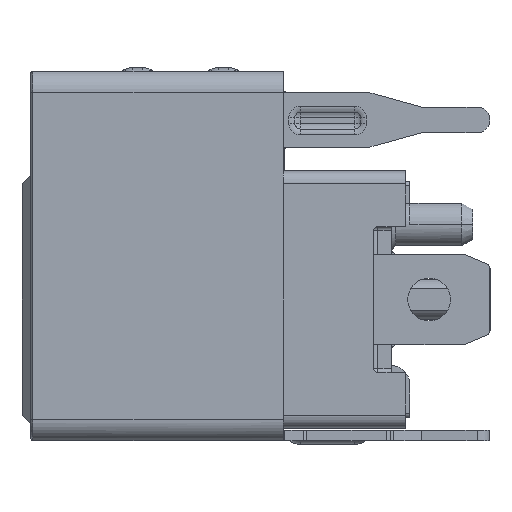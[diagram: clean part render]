
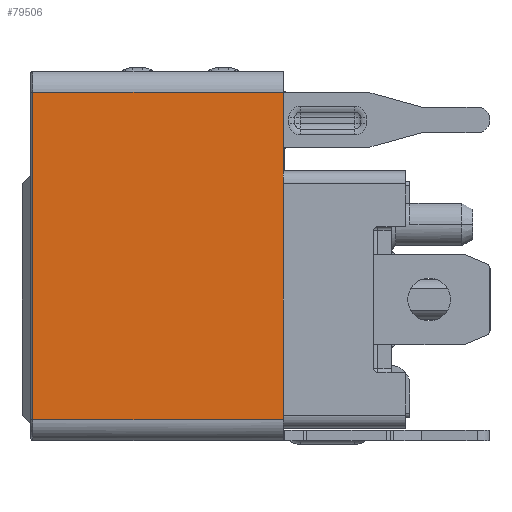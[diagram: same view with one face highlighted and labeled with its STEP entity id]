
A CAD part, left-side view. The second image highlights one B-rep face of the part: STEP entity #79506.
In plain terms, the highlighted planar face has unit normal (-1, 0, 0).
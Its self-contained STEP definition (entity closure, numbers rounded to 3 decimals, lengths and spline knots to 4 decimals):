
#4592=DIRECTION('',(0.,0.,-1.));
#4593=VECTOR('',#4592,3.64);
#4594=CARTESIAN_POINT('',(-28.06,2.22,1.82));
#4595=LINE('',#4594,#4593);
#4675=CARTESIAN_POINT('',(-28.06,2.42,-1.92));
#4676=DIRECTION('',(-1.,0.,0.));
#4677=DIRECTION('',(0.,0.,1.));
#4678=AXIS2_PLACEMENT_3D('',#4675,#4676,#4677);
#4680=DIRECTION('',(0.,0.,-1.));
#4681=VECTOR('',#4680,0.765);
#4682=CARTESIAN_POINT('',(-28.06,2.52,-2.035));
#4683=LINE('',#4682,#4681);
#4684=DIRECTION('',(0.,0.,-1.));
#4685=VECTOR('',#4684,0.965);
#4686=CARTESIAN_POINT('',(-28.06,2.52,3.));
#4687=LINE('',#4686,#4685);
#4688=CARTESIAN_POINT('',(-28.06,2.42,1.92));
#4689=DIRECTION('',(-1.,0.,0.));
#4690=DIRECTION('',(0.,1.,0.));
#4691=AXIS2_PLACEMENT_3D('',#4688,#4689,#4690);
#4701=DIRECTION('',(0.,-1.,0.));
#4702=VECTOR('',#4701,0.2);
#4703=CARTESIAN_POINT('',(-28.06,2.42,-1.82));
#4704=LINE('',#4703,#4702);
#4713=DIRECTION('',(0.,0.,1.));
#4714=VECTOR('',#4713,0.115);
#4715=CARTESIAN_POINT('',(-28.06,2.52,-2.035));
#4716=LINE('',#4715,#4714);
#4725=DIRECTION('',(0.,-1.,0.));
#4726=VECTOR('',#4725,5.85);
#4727=CARTESIAN_POINT('',(-28.06,8.37,-2.8));
#4728=LINE('',#4727,#4726);
#12267=DIRECTION('',(0.,0.,1.));
#12268=VECTOR('',#12267,1.83);
#12269=CARTESIAN_POINT('',(-28.06,2.52,3.));
#12270=LINE('',#12269,#12268);
#12295=DIRECTION('',(0.,1.,0.));
#12296=VECTOR('',#12295,5.85);
#12297=CARTESIAN_POINT('',(-28.06,2.52,4.83));
#12298=LINE('',#12297,#12296);
#16560=DIRECTION('',(0.,0.,1.));
#16561=VECTOR('',#16560,7.63);
#16562=CARTESIAN_POINT('',(-28.06,8.37,-2.8));
#16563=LINE('',#16562,#16561);
#43356=DIRECTION('',(0.,0.,1.));
#43357=VECTOR('',#43356,0.115);
#43358=CARTESIAN_POINT('',(-28.06,2.52,1.92));
#43359=LINE('',#43358,#43357);
#43372=DIRECTION('',(0.,-1.,0.));
#43373=VECTOR('',#43372,0.2);
#43374=CARTESIAN_POINT('',(-28.06,2.42,1.82));
#43375=LINE('',#43374,#43373);
#55446=CARTESIAN_POINT('',(-28.06,2.42,1.82));
#55447=CARTESIAN_POINT('',(-28.06,2.22,1.82));
#55448=VERTEX_POINT('',#55446);
#55449=VERTEX_POINT('',#55447);
#55450=CARTESIAN_POINT('',(-28.06,2.52,1.92));
#55451=VERTEX_POINT('',#55450);
#55452=CARTESIAN_POINT('',(-28.06,2.52,2.035));
#55453=VERTEX_POINT('',#55452);
#55454=CARTESIAN_POINT('',(-28.06,2.52,3.));
#55455=CARTESIAN_POINT('',(-28.06,2.52,4.83));
#55456=VERTEX_POINT('',#55454);
#55457=VERTEX_POINT('',#55455);
#55458=CARTESIAN_POINT('',(-28.06,8.37,4.83));
#55459=VERTEX_POINT('',#55458);
#55460=CARTESIAN_POINT('',(-28.06,8.37,-2.8));
#55461=VERTEX_POINT('',#55460);
#55462=CARTESIAN_POINT('',(-28.06,2.52,-2.8));
#55463=VERTEX_POINT('',#55462);
#55464=CARTESIAN_POINT('',(-28.06,2.52,-2.035));
#55465=CARTESIAN_POINT('',(-28.06,2.52,-1.92));
#55466=VERTEX_POINT('',#55464);
#55467=VERTEX_POINT('',#55465);
#55468=CARTESIAN_POINT('',(-28.06,2.42,-1.82));
#55469=VERTEX_POINT('',#55468);
#55470=CARTESIAN_POINT('',(-28.06,2.22,-1.82));
#55471=VERTEX_POINT('',#55470);
#79476=CARTESIAN_POINT('',(-28.06,5.295,1.015));
#79477=DIRECTION('',(1.,0.,0.));
#79478=DIRECTION('',(0.,0.,-1.));
#79479=AXIS2_PLACEMENT_3D('',#79476,#79477,#79478);
#79480=PLANE('',#79479);
#79481=ORIENTED_EDGE('',*,*,#79341,.T.);
#79483=ORIENTED_EDGE('',*,*,#79482,.F.);
#79485=ORIENTED_EDGE('',*,*,#79484,.T.);
#79487=ORIENTED_EDGE('',*,*,#79486,.F.);
#79488=ORIENTED_EDGE('',*,*,#79461,.T.);
#79490=ORIENTED_EDGE('',*,*,#79489,.F.);
#79492=ORIENTED_EDGE('',*,*,#79491,.T.);
#79494=ORIENTED_EDGE('',*,*,#79493,.F.);
#79496=ORIENTED_EDGE('',*,*,#79495,.F.);
#79497=ORIENTED_EDGE('',*,*,#79448,.T.);
#79499=ORIENTED_EDGE('',*,*,#79498,.F.);
#79501=ORIENTED_EDGE('',*,*,#79500,.T.);
#79503=ORIENTED_EDGE('',*,*,#79502,.T.);
#79504=EDGE_LOOP('',(#79481,#79483,#79485,#79487,#79488,#79490,#79492,#79494,
#79496,#79497,#79499,#79501,#79503));
#79505=FACE_OUTER_BOUND('',#79504,.F.);
#4679=CIRCLE('',#4678,0.1);
#4692=CIRCLE('',#4691,0.1);
#79341=EDGE_CURVE('',#55449,#55471,#4595,.T.);
#79448=EDGE_CURVE('',#55456,#55453,#4687,.T.);
#79461=EDGE_CURVE('',#55466,#55463,#4683,.T.);
#79482=EDGE_CURVE('',#55469,#55471,#4704,.T.);
#79484=EDGE_CURVE('',#55469,#55467,#4679,.T.);
#79486=EDGE_CURVE('',#55466,#55467,#4716,.T.);
#79489=EDGE_CURVE('',#55461,#55463,#4728,.T.);
#79491=EDGE_CURVE('',#55461,#55459,#16563,.T.);
#79493=EDGE_CURVE('',#55457,#55459,#12298,.T.);
#79495=EDGE_CURVE('',#55456,#55457,#12270,.T.);
#79498=EDGE_CURVE('',#55451,#55453,#43359,.T.);
#79500=EDGE_CURVE('',#55451,#55448,#4692,.T.);
#79502=EDGE_CURVE('',#55448,#55449,#43375,.T.);
#79506=ADVANCED_FACE('',(#79505),#79480,.F.);
